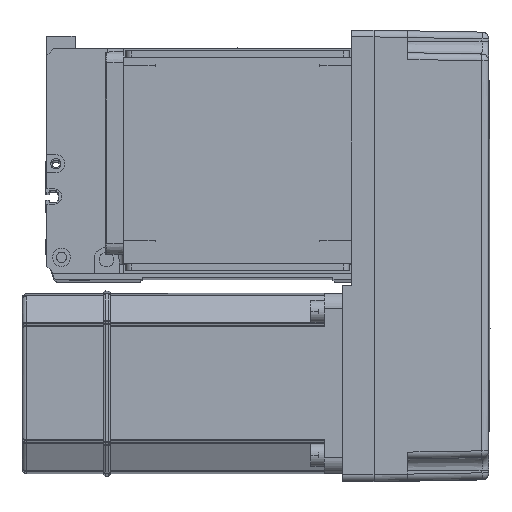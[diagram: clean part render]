
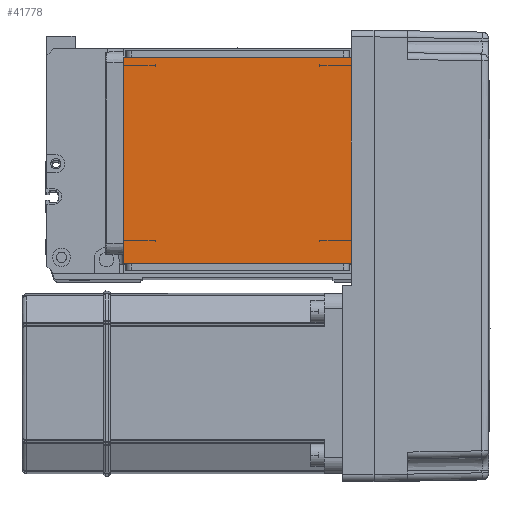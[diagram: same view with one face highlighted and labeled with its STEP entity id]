
A CAD part, top view. The second image highlights one B-rep face of the part: STEP entity #41778.
In plain terms, the highlighted planar face has unit normal (0, 0, 1).
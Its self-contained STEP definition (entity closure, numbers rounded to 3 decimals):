
#1265 = DIRECTION ( 'NONE',  ( -1., 0., 0. ) ) ;
#1771 = VERTEX_POINT ( 'NONE', #51636 ) ;
#9054 = ORIENTED_EDGE ( 'NONE', *, *, #32190, .F. ) ;
#9285 = LINE ( 'NONE', #52451, #44813 ) ;
#9445 = FACE_OUTER_BOUND ( 'NONE', #47878, .T. ) ;
#11414 = ORIENTED_EDGE ( 'NONE', *, *, #32815, .T. ) ;
#13228 = CARTESIAN_POINT ( 'NONE',  ( -50.5, 111.5, 115. ) ) ;
#14364 = CARTESIAN_POINT ( 'NONE',  ( -70.004, 20., 115. ) ) ;
#15079 = CARTESIAN_POINT ( 'NONE',  ( 50.5, 111.5, 115. ) ) ;
#17041 = ORIENTED_EDGE ( 'NONE', *, *, #37714, .F. ) ;
#18896 = CARTESIAN_POINT ( 'NONE',  ( -70.004, 111.5, 115. ) ) ;
#19927 = PLANE ( 'NONE',  #42863 ) ;
#20160 = VECTOR ( 'NONE', #1265, 1000. ) ;
#25500 = EDGE_CURVE ( 'NONE', #54005, #1771, #33374, .T. ) ;
#25587 = ORIENTED_EDGE ( 'NONE', *, *, #25500, .T. ) ;
#26769 = DIRECTION ( 'NONE',  ( 0., -1., 0. ) ) ;
#30572 = DIRECTION ( 'NONE',  ( 0., 1., 0. ) ) ;
#31771 = LINE ( 'NONE', #14364, #20160 ) ;
#32190 = EDGE_CURVE ( 'NONE', #54005, #47235, #36071, .T. ) ;
#32201 = VERTEX_POINT ( 'NONE', #35730 ) ;
#32346 = DIRECTION ( 'NONE',  ( 0., 0., 1. ) ) ;
#32815 = EDGE_CURVE ( 'NONE', #32201, #47235, #9285, .T. ) ;
#33374 = LINE ( 'NONE', #44671, #53136 ) ;
#35730 = CARTESIAN_POINT ( 'NONE',  ( 50.5, 20., 115. ) ) ;
#36071 = LINE ( 'NONE', #18896, #56453 ) ;
#37714 = EDGE_CURVE ( 'NONE', #32201, #1771, #31771, .T. ) ;
#41140 = CARTESIAN_POINT ( 'NONE',  ( 0., 0., 115. ) ) ;
#41778 = ADVANCED_FACE ( 'NONE', ( #9445 ), #19927, .T. ) ;
#42863 = AXIS2_PLACEMENT_3D ( 'NONE', #41140, #32346, #45323 ) ;
#44671 = CARTESIAN_POINT ( 'NONE',  ( -50.5, 122., 115. ) ) ;
#44813 = VECTOR ( 'NONE', #30572, 1000. ) ;
#45323 = DIRECTION ( 'NONE',  ( 1., 0., 0. ) ) ;
#47235 = VERTEX_POINT ( 'NONE', #15079 ) ;
#47878 = EDGE_LOOP ( 'NONE', ( #9054, #25587, #17041, #11414 ) ) ;
#49397 = DIRECTION ( 'NONE',  ( 1., 0., 0. ) ) ;
#51636 = CARTESIAN_POINT ( 'NONE',  ( -50.5, 20., 115. ) ) ;
#52451 = CARTESIAN_POINT ( 'NONE',  ( 50.5, 122., 115. ) ) ;
#53136 = VECTOR ( 'NONE', #26769, 1000. ) ;
#54005 = VERTEX_POINT ( 'NONE', #13228 ) ;
#56453 = VECTOR ( 'NONE', #49397, 1000. ) ;
